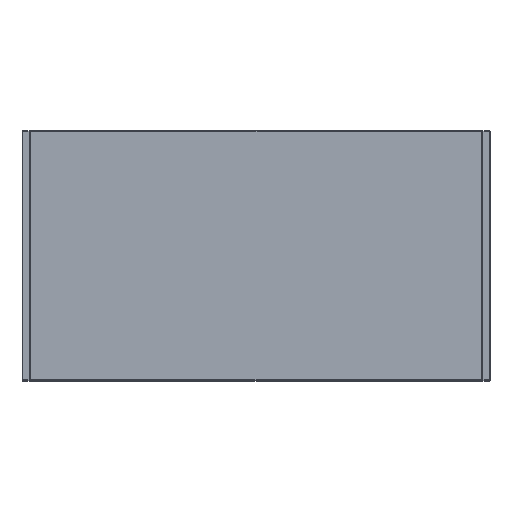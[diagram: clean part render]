
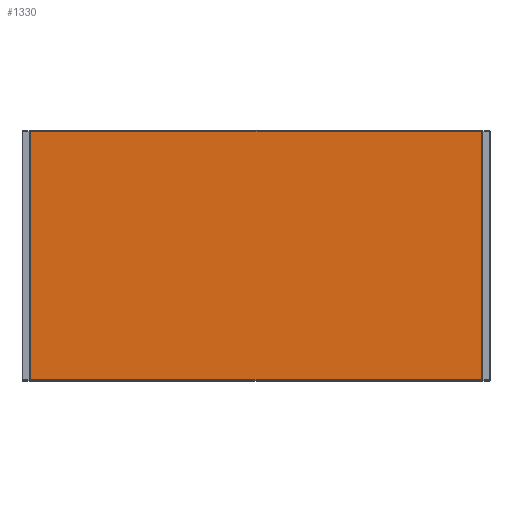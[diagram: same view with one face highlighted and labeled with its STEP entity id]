
A CAD part, top view. The second image highlights one B-rep face of the part: STEP entity #1330.
In plain terms, the highlighted planar face has unit normal (0, 0, 1).
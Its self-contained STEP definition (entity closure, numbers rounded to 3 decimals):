
#5 = VECTOR ( 'NONE', #3007, 1000. ) ;
#29 = EDGE_CURVE ( 'NONE', #2893, #1216, #1778, .T. ) ;
#192 = EDGE_CURVE ( 'NONE', #595, #1361, #3150, .T. ) ;
#431 = DIRECTION ( 'NONE',  ( 0., 0., -1. ) ) ;
#490 = VECTOR ( 'NONE', #932, 1000. ) ;
#595 = VERTEX_POINT ( 'NONE', #1358 ) ;
#616 = LINE ( 'NONE', #2766, #5 ) ;
#670 = CARTESIAN_POINT ( 'NONE',  ( -290., 320., 5. ) ) ;
#681 = EDGE_CURVE ( 'NONE', #1361, #2893, #1147, .T. ) ;
#694 = CARTESIAN_POINT ( 'NONE',  ( -289., 1., 5. ) ) ;
#808 = EDGE_LOOP ( 'NONE', ( #3148, #2077, #2443, #2502 ) ) ;
#932 = DIRECTION ( 'NONE',  ( 1., 0., 0. ) ) ;
#1057 = VECTOR ( 'NONE', #2342, 1000. ) ;
#1147 = LINE ( 'NONE', #2589, #1057 ) ;
#1216 = VERTEX_POINT ( 'NONE', #1862 ) ;
#1330 = ADVANCED_FACE ( 'NONE', ( #1907 ), #2853, .F. ) ;
#1358 = CARTESIAN_POINT ( 'NONE',  ( 289., 319., 5. ) ) ;
#1361 = VERTEX_POINT ( 'NONE', #2243 ) ;
#1409 = DIRECTION ( 'NONE',  ( -1., 0., 0. ) ) ;
#1462 = VECTOR ( 'NONE', #1906, 1000. ) ;
#1644 = EDGE_CURVE ( 'NONE', #1216, #595, #616, .T. ) ;
#1778 = LINE ( 'NONE', #2756, #490 ) ;
#1862 = CARTESIAN_POINT ( 'NONE',  ( 289., 1., 5. ) ) ;
#1906 = DIRECTION ( 'NONE',  ( -1., 0., 0. ) ) ;
#1907 = FACE_OUTER_BOUND ( 'NONE', #808, .T. ) ;
#2021 = AXIS2_PLACEMENT_3D ( 'NONE', #670, #431, #1409 ) ;
#2077 = ORIENTED_EDGE ( 'NONE', *, *, #681, .T. ) ;
#2243 = CARTESIAN_POINT ( 'NONE',  ( -289., 319., 5. ) ) ;
#2342 = DIRECTION ( 'NONE',  ( 0., -1., 0. ) ) ;
#2443 = ORIENTED_EDGE ( 'NONE', *, *, #29, .T. ) ;
#2502 = ORIENTED_EDGE ( 'NONE', *, *, #1644, .T. ) ;
#2589 = CARTESIAN_POINT ( 'NONE',  ( -289., 320., 5. ) ) ;
#2756 = CARTESIAN_POINT ( 'NONE',  ( 290., 1., 5. ) ) ;
#2766 = CARTESIAN_POINT ( 'NONE',  ( 289., 320., 5. ) ) ;
#2853 = PLANE ( 'NONE',  #2021 ) ;
#2893 = VERTEX_POINT ( 'NONE', #694 ) ;
#3007 = DIRECTION ( 'NONE',  ( 0., 1., 0. ) ) ;
#3109 = CARTESIAN_POINT ( 'NONE',  ( -290., 319., 5. ) ) ;
#3148 = ORIENTED_EDGE ( 'NONE', *, *, #192, .T. ) ;
#3150 = LINE ( 'NONE', #3109, #1462 ) ;
